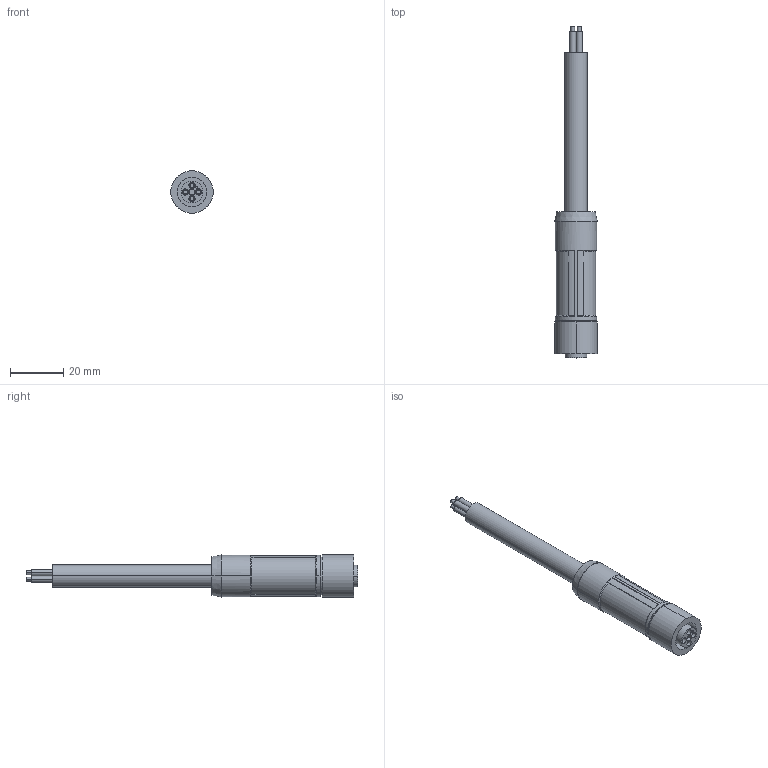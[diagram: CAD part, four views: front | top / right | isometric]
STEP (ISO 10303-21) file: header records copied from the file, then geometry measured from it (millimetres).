
FILE_DESCRIPTION (( 'STEP AP203' ), '1' );
FILE_NAME ('Powerleitung_SAC-4P-2.0-PUR_M12FST_-_PhoenixContact_1408824.step', '2022-02-03T16:13:33', ( '' ), ( '' ), 'SwSTEP 2.0', 'SolidWorks 2020', '' );
FILE_SCHEMA (( 'CONFIG_CONTROL_DESIGN' ));
Length unit declared in the file: millimetre
Products named in the file (1): Powerleitung_SAC-4P-2.0-PUR_M12FST_-_PhoenixContact_1408824
Bounding box: 16 x 125 x 16 mm (x, y, z)
Volume: 13017 mm3; surface area: 5654 mm2
Topology: 1 solids, 1 shells, 100 faces, 223 edges, 148 vertices
Faces by surface type: cylinder 51, plane 41, cone 8
Entity records: 2928 total; most frequent: CARTESIAN_POINT 540, DIRECTION 517, ORIENTED_EDGE 446, EDGE_CURVE 223, AXIS2_PLACEMENT_3D 213, VERTEX_POINT 148, EDGE_LOOP 123, CIRCLE 112
